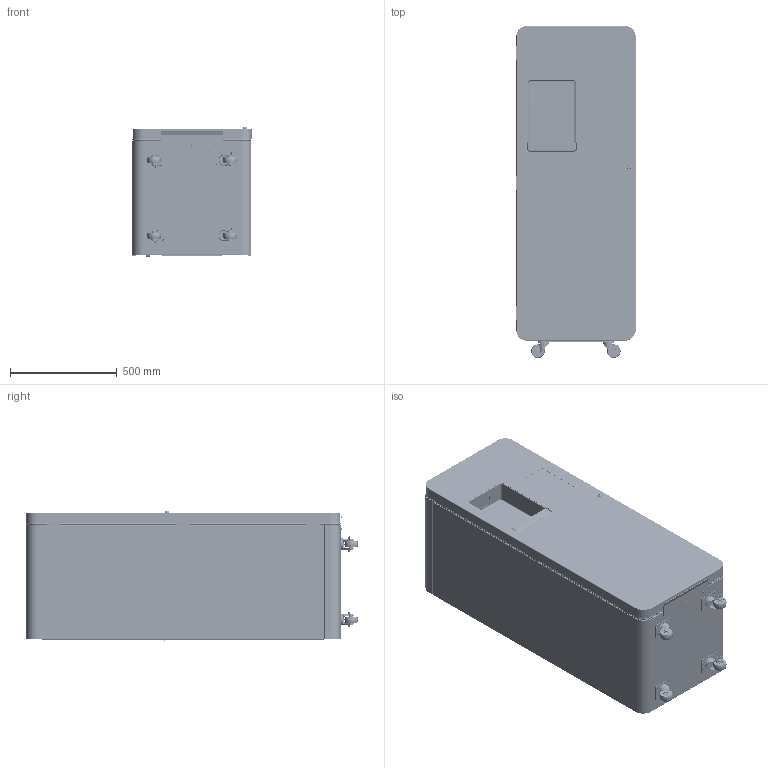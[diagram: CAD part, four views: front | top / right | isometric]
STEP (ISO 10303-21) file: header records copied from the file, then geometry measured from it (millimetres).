
FILE_DESCRIPTION (( 'STEP AP214' ), '1' );
FILE_NAME ('BEVI_FREESTANDING_V1.STEP', '2018-06-13T13:59:46', ( '' ), ( '' ), 'SwSTEP 2.0', 'SolidWorks 2016', '' );
FILE_SCHEMA (( 'AUTOMOTIVE_DESIGN' ));
Length unit declared in the file: inch
Products named in the file (1): BEVI_FREESTANDING_V1
Bounding box: 559.92 x 1555.2 x 607.52 mm (x, y, z)
Volume: 10328947.1 mm3; surface area: 10509745.9 mm2
Topology: 286 solids, 286 shells, 20050 faces, 54188 edges, 35189 vertices
Faces by surface type: plane 11790, cylinder 4704, cone 2413, bspline 586, torus 471, sphere 86
Entity records: 917120 total; most frequent: CARTESIAN_POINT 144775, ORIENTED_EDGE 108208, DIRECTION 104206, EDGE_CURVE 54104, AXIS2_PLACEMENT_3D 35556, VERTEX_POINT 35189, LINE 33094, VECTOR 33094
